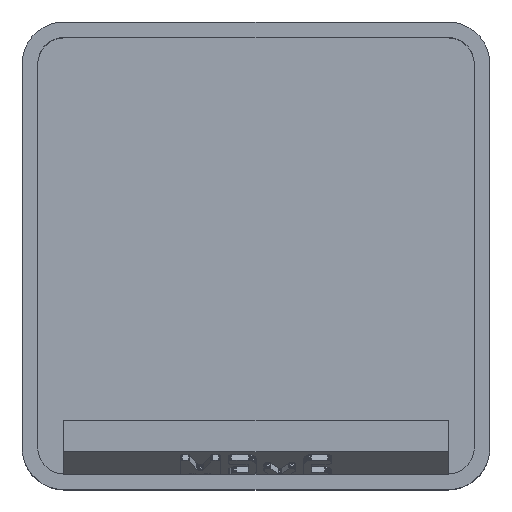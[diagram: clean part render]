
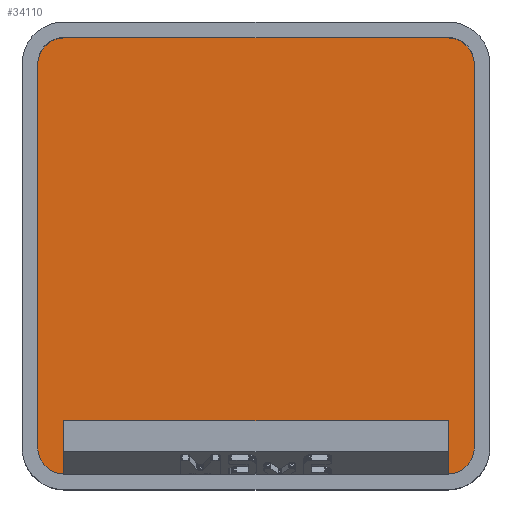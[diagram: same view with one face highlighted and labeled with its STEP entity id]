
A CAD part, top view. The second image highlights one B-rep face of the part: STEP entity #34110.
In plain terms, the highlighted planar face has unit normal (0, 0, 1).
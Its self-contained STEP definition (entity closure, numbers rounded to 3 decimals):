
#912 = PLANE('',#913);
#913 = AXIS2_PLACEMENT_3D('',#914,#915,#916);
#914 = CARTESIAN_POINT('',(-19.6,0.,25.));
#915 = DIRECTION('',(-1.,0.,0.));
#916 = DIRECTION('',(-0.,-1.,-0.));
#940 = CYLINDRICAL_SURFACE('',#941,2.35);
#941 = AXIS2_PLACEMENT_3D('',#942,#943,#944);
#942 = CARTESIAN_POINT('',(-17.25,17.25,5.95));
#943 = DIRECTION('',(-0.,-0.,1.));
#944 = DIRECTION('',(-1.,0.,0.));
#967 = PLANE('',#968);
#968 = AXIS2_PLACEMENT_3D('',#969,#970,#971);
#969 = CARTESIAN_POINT('',(0.,19.6,25.));
#970 = DIRECTION('',(0.,1.,0.));
#971 = DIRECTION('',(-1.,0.,0.));
#995 = CYLINDRICAL_SURFACE('',#996,2.35);
#996 = AXIS2_PLACEMENT_3D('',#997,#998,#999);
#997 = CARTESIAN_POINT('',(17.25,17.25,5.95));
#998 = DIRECTION('',(-0.,-0.,1.));
#999 = DIRECTION('',(-1.,0.,0.));
#1022 = PLANE('',#1023);
#1023 = AXIS2_PLACEMENT_3D('',#1024,#1025,#1026);
#1024 = CARTESIAN_POINT('',(19.6,0.,25.));
#1025 = DIRECTION('',(1.,0.,0.));
#1026 = DIRECTION('',(-0.,1.,0.));
#1050 = CYLINDRICAL_SURFACE('',#1051,2.35);
#1051 = AXIS2_PLACEMENT_3D('',#1052,#1053,#1054);
#1052 = CARTESIAN_POINT('',(17.25,-17.25,5.95));
#1053 = DIRECTION('',(-0.,-0.,1.));
#1054 = DIRECTION('',(-1.,0.,0.));
#1103 = CYLINDRICAL_SURFACE('',#1104,2.35);
#1104 = AXIS2_PLACEMENT_3D('',#1105,#1106,#1107);
#1105 = CARTESIAN_POINT('',(-17.25,-17.25,5.95));
#1106 = DIRECTION('',(-0.,-0.,1.));
#1107 = DIRECTION('',(-1.,0.,0.));
#12793 = EDGE_CURVE('',#12794,#12796,#12798,.T.);
#12794 = VERTEX_POINT('',#12795);
#12795 = CARTESIAN_POINT('',(-19.6,-17.25,5.95));
#12796 = VERTEX_POINT('',#12797);
#12797 = CARTESIAN_POINT('',(-19.6,17.25,5.95));
#12798 = SURFACE_CURVE('',#12799,(#12803,#12810),.PCURVE_S1.);
#12799 = LINE('',#12800,#12801);
#12800 = CARTESIAN_POINT('',(-19.6,0.,5.95));
#12801 = VECTOR('',#12802,1.);
#12802 = DIRECTION('',(0.,1.,0.));
#12803 = PCURVE('',#912,#12804);
#12804 = DEFINITIONAL_REPRESENTATION('',(#12805),#12809);
#12805 = LINE('',#12806,#12807);
#12806 = CARTESIAN_POINT('',(0.,-19.05));
#12807 = VECTOR('',#12808,1.);
#12808 = DIRECTION('',(-1.,0.));
#12809 = ( GEOMETRIC_REPRESENTATION_CONTEXT(2) 
PARAMETRIC_REPRESENTATION_CONTEXT() REPRESENTATION_CONTEXT('2D SPACE',''
  ) );
#12810 = PCURVE('',#12811,#12816);
#12811 = PLANE('',#12812);
#12812 = AXIS2_PLACEMENT_3D('',#12813,#12814,#12815);
#12813 = CARTESIAN_POINT('',(-17.25,-17.25,5.95));
#12814 = DIRECTION('',(0.,0.,-1.));
#12815 = DIRECTION('',(-1.,0.,0.));
#12816 = DEFINITIONAL_REPRESENTATION('',(#12817),#12821);
#12817 = LINE('',#12818,#12819);
#12818 = CARTESIAN_POINT('',(2.35,17.25));
#12819 = VECTOR('',#12820,1.);
#12820 = DIRECTION('',(0.,1.));
#12821 = ( GEOMETRIC_REPRESENTATION_CONTEXT(2) 
PARAMETRIC_REPRESENTATION_CONTEXT() REPRESENTATION_CONTEXT('2D SPACE',''
  ) );
#12868 = EDGE_CURVE('',#12869,#12794,#12871,.T.);
#12869 = VERTEX_POINT('',#12870);
#12870 = CARTESIAN_POINT('',(-17.25,-19.6,5.95));
#12871 = SURFACE_CURVE('',#12872,(#12877,#12884),.PCURVE_S1.);
#12872 = CIRCLE('',#12873,2.35);
#12873 = AXIS2_PLACEMENT_3D('',#12874,#12875,#12876);
#12874 = CARTESIAN_POINT('',(-17.25,-17.25,5.95));
#12875 = DIRECTION('',(0.,0.,-1.));
#12876 = DIRECTION('',(-1.,0.,0.));
#12877 = PCURVE('',#1103,#12878);
#12878 = DEFINITIONAL_REPRESENTATION('',(#12879),#12883);
#12879 = LINE('',#12880,#12881);
#12880 = CARTESIAN_POINT('',(6.283,0.));
#12881 = VECTOR('',#12882,1.);
#12882 = DIRECTION('',(-1.,0.));
#12883 = ( GEOMETRIC_REPRESENTATION_CONTEXT(2) 
PARAMETRIC_REPRESENTATION_CONTEXT() REPRESENTATION_CONTEXT('2D SPACE',''
  ) );
#12884 = PCURVE('',#12811,#12885);
#12885 = DEFINITIONAL_REPRESENTATION('',(#12886),#12890);
#12886 = CIRCLE('',#12887,2.35);
#12887 = AXIS2_PLACEMENT_2D('',#12888,#12889);
#12888 = CARTESIAN_POINT('',(0.,0.));
#12889 = DIRECTION('',(1.,0.));
#12890 = ( GEOMETRIC_REPRESENTATION_CONTEXT(2) 
PARAMETRIC_REPRESENTATION_CONTEXT() REPRESENTATION_CONTEXT('2D SPACE',''
  ) );
#12908 = PLANE('',#12909);
#12909 = AXIS2_PLACEMENT_3D('',#12910,#12911,#12912);
#12910 = CARTESIAN_POINT('',(0.,-19.6,25.));
#12911 = DIRECTION('',(0.,-1.,0.));
#12912 = DIRECTION('',(1.,0.,0.));
#12995 = EDGE_CURVE('',#12996,#12998,#13000,.T.);
#12996 = VERTEX_POINT('',#12997);
#12997 = CARTESIAN_POINT('',(19.6,-17.25,5.95));
#12998 = VERTEX_POINT('',#12999);
#12999 = CARTESIAN_POINT('',(17.25,-19.6,5.95));
#13000 = SURFACE_CURVE('',#13001,(#13006,#13013),.PCURVE_S1.);
#13001 = CIRCLE('',#13002,2.35);
#13002 = AXIS2_PLACEMENT_3D('',#13003,#13004,#13005);
#13003 = CARTESIAN_POINT('',(17.25,-17.25,5.95));
#13004 = DIRECTION('',(0.,0.,-1.));
#13005 = DIRECTION('',(-1.,0.,0.));
#13006 = PCURVE('',#1050,#13007);
#13007 = DEFINITIONAL_REPRESENTATION('',(#13008),#13012);
#13008 = LINE('',#13009,#13010);
#13009 = CARTESIAN_POINT('',(6.283,0.));
#13010 = VECTOR('',#13011,1.);
#13011 = DIRECTION('',(-1.,0.));
#13012 = ( GEOMETRIC_REPRESENTATION_CONTEXT(2) 
PARAMETRIC_REPRESENTATION_CONTEXT() REPRESENTATION_CONTEXT('2D SPACE',''
  ) );
#13013 = PCURVE('',#12811,#13014);
#13014 = DEFINITIONAL_REPRESENTATION('',(#13015),#13019);
#13015 = CIRCLE('',#13016,2.35);
#13016 = AXIS2_PLACEMENT_2D('',#13017,#13018);
#13017 = CARTESIAN_POINT('',(-34.5,0.));
#13018 = DIRECTION('',(1.,0.));
#13019 = ( GEOMETRIC_REPRESENTATION_CONTEXT(2) 
PARAMETRIC_REPRESENTATION_CONTEXT() REPRESENTATION_CONTEXT('2D SPACE',''
  ) );
#13093 = EDGE_CURVE('',#12996,#13094,#13096,.T.);
#13094 = VERTEX_POINT('',#13095);
#13095 = CARTESIAN_POINT('',(19.6,17.25,5.95));
#13096 = SURFACE_CURVE('',#13097,(#13101,#13108),.PCURVE_S1.);
#13097 = LINE('',#13098,#13099);
#13098 = CARTESIAN_POINT('',(19.6,0.,5.95));
#13099 = VECTOR('',#13100,1.);
#13100 = DIRECTION('',(0.,1.,0.));
#13101 = PCURVE('',#1022,#13102);
#13102 = DEFINITIONAL_REPRESENTATION('',(#13103),#13107);
#13103 = LINE('',#13104,#13105);
#13104 = CARTESIAN_POINT('',(0.,-19.05));
#13105 = VECTOR('',#13106,1.);
#13106 = DIRECTION('',(1.,0.));
#13107 = ( GEOMETRIC_REPRESENTATION_CONTEXT(2) 
PARAMETRIC_REPRESENTATION_CONTEXT() REPRESENTATION_CONTEXT('2D SPACE',''
  ) );
#13108 = PCURVE('',#12811,#13109);
#13109 = DEFINITIONAL_REPRESENTATION('',(#13110),#13114);
#13110 = LINE('',#13111,#13112);
#13111 = CARTESIAN_POINT('',(-36.85,17.25));
#13112 = VECTOR('',#13113,1.);
#13113 = DIRECTION('',(0.,1.));
#13114 = ( GEOMETRIC_REPRESENTATION_CONTEXT(2) 
PARAMETRIC_REPRESENTATION_CONTEXT() REPRESENTATION_CONTEXT('2D SPACE',''
  ) );
#13141 = EDGE_CURVE('',#13142,#13094,#13144,.T.);
#13142 = VERTEX_POINT('',#13143);
#13143 = CARTESIAN_POINT('',(17.25,19.6,5.95));
#13144 = SURFACE_CURVE('',#13145,(#13150,#13157),.PCURVE_S1.);
#13145 = CIRCLE('',#13146,2.35);
#13146 = AXIS2_PLACEMENT_3D('',#13147,#13148,#13149);
#13147 = CARTESIAN_POINT('',(17.25,17.25,5.95));
#13148 = DIRECTION('',(0.,0.,-1.));
#13149 = DIRECTION('',(-1.,0.,0.));
#13150 = PCURVE('',#995,#13151);
#13151 = DEFINITIONAL_REPRESENTATION('',(#13152),#13156);
#13152 = LINE('',#13153,#13154);
#13153 = CARTESIAN_POINT('',(6.283,0.));
#13154 = VECTOR('',#13155,1.);
#13155 = DIRECTION('',(-1.,0.));
#13156 = ( GEOMETRIC_REPRESENTATION_CONTEXT(2) 
PARAMETRIC_REPRESENTATION_CONTEXT() REPRESENTATION_CONTEXT('2D SPACE',''
  ) );
#13157 = PCURVE('',#12811,#13158);
#13158 = DEFINITIONAL_REPRESENTATION('',(#13159),#13163);
#13159 = CIRCLE('',#13160,2.35);
#13160 = AXIS2_PLACEMENT_2D('',#13161,#13162);
#13161 = CARTESIAN_POINT('',(-34.5,34.5));
#13162 = DIRECTION('',(1.,0.));
#13163 = ( GEOMETRIC_REPRESENTATION_CONTEXT(2) 
PARAMETRIC_REPRESENTATION_CONTEXT() REPRESENTATION_CONTEXT('2D SPACE',''
  ) );
#13191 = EDGE_CURVE('',#13192,#13142,#13194,.T.);
#13192 = VERTEX_POINT('',#13193);
#13193 = CARTESIAN_POINT('',(-17.25,19.6,5.95));
#13194 = SURFACE_CURVE('',#13195,(#13199,#13206),.PCURVE_S1.);
#13195 = LINE('',#13196,#13197);
#13196 = CARTESIAN_POINT('',(0.,19.6,5.95));
#13197 = VECTOR('',#13198,1.);
#13198 = DIRECTION('',(1.,0.,0.));
#13199 = PCURVE('',#967,#13200);
#13200 = DEFINITIONAL_REPRESENTATION('',(#13201),#13205);
#13201 = LINE('',#13202,#13203);
#13202 = CARTESIAN_POINT('',(0.,-19.05));
#13203 = VECTOR('',#13204,1.);
#13204 = DIRECTION('',(-1.,0.));
#13205 = ( GEOMETRIC_REPRESENTATION_CONTEXT(2) 
PARAMETRIC_REPRESENTATION_CONTEXT() REPRESENTATION_CONTEXT('2D SPACE',''
  ) );
#13206 = PCURVE('',#12811,#13207);
#13207 = DEFINITIONAL_REPRESENTATION('',(#13208),#13212);
#13208 = LINE('',#13209,#13210);
#13209 = CARTESIAN_POINT('',(-17.25,36.85));
#13210 = VECTOR('',#13211,1.);
#13211 = DIRECTION('',(-1.,0.));
#13212 = ( GEOMETRIC_REPRESENTATION_CONTEXT(2) 
PARAMETRIC_REPRESENTATION_CONTEXT() REPRESENTATION_CONTEXT('2D SPACE',''
  ) );
#13240 = EDGE_CURVE('',#12796,#13192,#13241,.T.);
#13241 = SURFACE_CURVE('',#13242,(#13247,#13254),.PCURVE_S1.);
#13242 = CIRCLE('',#13243,2.35);
#13243 = AXIS2_PLACEMENT_3D('',#13244,#13245,#13246);
#13244 = CARTESIAN_POINT('',(-17.25,17.25,5.95));
#13245 = DIRECTION('',(0.,0.,-1.));
#13246 = DIRECTION('',(-1.,0.,0.));
#13247 = PCURVE('',#940,#13248);
#13248 = DEFINITIONAL_REPRESENTATION('',(#13249),#13253);
#13249 = LINE('',#13250,#13251);
#13250 = CARTESIAN_POINT('',(6.283,0.));
#13251 = VECTOR('',#13252,1.);
#13252 = DIRECTION('',(-1.,0.));
#13253 = ( GEOMETRIC_REPRESENTATION_CONTEXT(2) 
PARAMETRIC_REPRESENTATION_CONTEXT() REPRESENTATION_CONTEXT('2D SPACE',''
  ) );
#13254 = PCURVE('',#12811,#13255);
#13255 = DEFINITIONAL_REPRESENTATION('',(#13256),#13260);
#13256 = CIRCLE('',#13257,2.35);
#13257 = AXIS2_PLACEMENT_2D('',#13258,#13259);
#13258 = CARTESIAN_POINT('',(0.,34.5));
#13259 = DIRECTION('',(1.,0.));
#13260 = ( GEOMETRIC_REPRESENTATION_CONTEXT(2) 
PARAMETRIC_REPRESENTATION_CONTEXT() REPRESENTATION_CONTEXT('2D SPACE',''
  ) );
#34110 = ADVANCED_FACE('',(#34111),#12811,.F.);
#34111 = FACE_BOUND('',#34112,.T.);
#34112 = EDGE_LOOP('',(#34113,#34114,#34115,#34136,#34137,#34138,#34139,
    #34140));
#34113 = ORIENTED_EDGE('',*,*,#12793,.F.);
#34114 = ORIENTED_EDGE('',*,*,#12868,.F.);
#34115 = ORIENTED_EDGE('',*,*,#34116,.T.);
#34116 = EDGE_CURVE('',#12869,#12998,#34117,.T.);
#34117 = SURFACE_CURVE('',#34118,(#34122,#34129),.PCURVE_S1.);
#34118 = LINE('',#34119,#34120);
#34119 = CARTESIAN_POINT('',(0.,-19.6,5.95));
#34120 = VECTOR('',#34121,1.);
#34121 = DIRECTION('',(1.,0.,0.));
#34122 = PCURVE('',#12811,#34123);
#34123 = DEFINITIONAL_REPRESENTATION('',(#34124),#34128);
#34124 = LINE('',#34125,#34126);
#34125 = CARTESIAN_POINT('',(-17.25,-2.35));
#34126 = VECTOR('',#34127,1.);
#34127 = DIRECTION('',(-1.,0.));
#34128 = ( GEOMETRIC_REPRESENTATION_CONTEXT(2) 
PARAMETRIC_REPRESENTATION_CONTEXT() REPRESENTATION_CONTEXT('2D SPACE',''
  ) );
#34129 = PCURVE('',#12908,#34130);
#34130 = DEFINITIONAL_REPRESENTATION('',(#34131),#34135);
#34131 = LINE('',#34132,#34133);
#34132 = CARTESIAN_POINT('',(0.,-19.05));
#34133 = VECTOR('',#34134,1.);
#34134 = DIRECTION('',(1.,0.));
#34135 = ( GEOMETRIC_REPRESENTATION_CONTEXT(2) 
PARAMETRIC_REPRESENTATION_CONTEXT() REPRESENTATION_CONTEXT('2D SPACE',''
  ) );
#34136 = ORIENTED_EDGE('',*,*,#12995,.F.);
#34137 = ORIENTED_EDGE('',*,*,#13093,.T.);
#34138 = ORIENTED_EDGE('',*,*,#13141,.F.);
#34139 = ORIENTED_EDGE('',*,*,#13191,.F.);
#34140 = ORIENTED_EDGE('',*,*,#13240,.F.);
